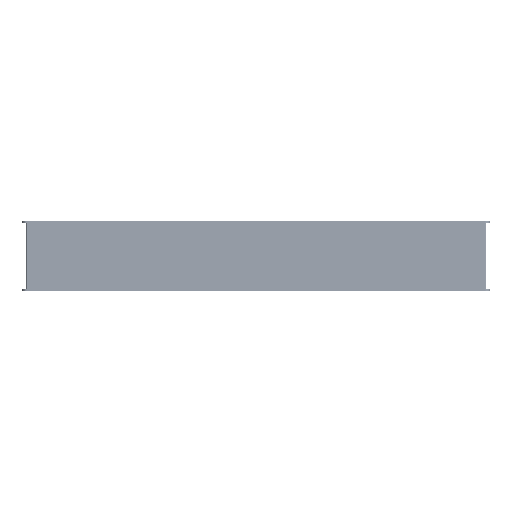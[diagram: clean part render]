
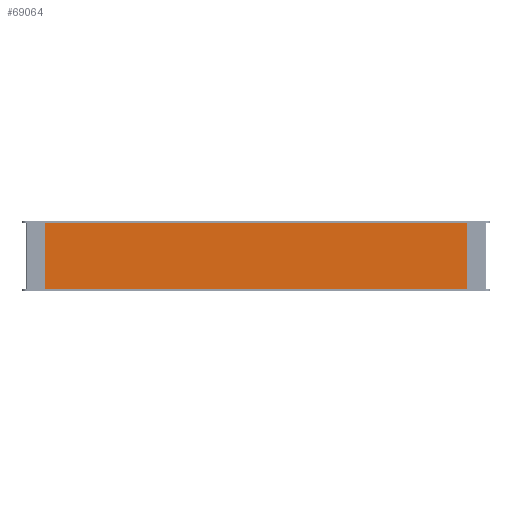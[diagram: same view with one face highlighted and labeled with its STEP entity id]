
A CAD part, left-side view. The second image highlights one B-rep face of the part: STEP entity #69064.
In plain terms, the highlighted planar face has unit normal (-1, 0, 0).
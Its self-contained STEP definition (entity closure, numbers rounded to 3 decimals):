
#3157 = LINE ( 'NONE', #26781, #58211 ) ;
#3183 = LINE ( 'NONE', #143911, #82022 ) ;
#8129 = EDGE_CURVE ( 'NONE', #134507, #163203, #3183, .T. ) ;
#11879 = DIRECTION ( 'NONE',  ( 0., -1., 0. ) ) ;
#14982 = DIRECTION ( 'NONE',  ( 0., -1., 0. ) ) ;
#15787 = DIRECTION ( 'NONE',  ( 0., 0., -1. ) ) ;
#26781 = CARTESIAN_POINT ( 'NONE',  ( -875.983, -448.14, 8.955 ) ) ;
#38803 = LINE ( 'NONE', #125627, #146312 ) ;
#39226 = CARTESIAN_POINT ( 'NONE',  ( -875.983, -448.14, -131.045 ) ) ;
#42397 = AXIS2_PLACEMENT_3D ( 'NONE', #108430, #94148, #14982 ) ;
#42930 = ORIENTED_EDGE ( 'NONE', *, *, #81920, .T. ) ;
#47175 = EDGE_LOOP ( 'NONE', ( #166300, #42930, #49036, #162150 ) ) ;
#49036 = ORIENTED_EDGE ( 'NONE', *, *, #104872, .T. ) ;
#58211 = VECTOR ( 'NONE', #78155, 1000. ) ;
#61673 = VERTEX_POINT ( 'NONE', #39226 ) ;
#69064 = ADVANCED_FACE ( 'NONE', ( #107604 ), #78991, .F. ) ;
#70406 = VERTEX_POINT ( 'NONE', #120253 ) ;
#78155 = DIRECTION ( 'NONE',  ( 0., 0., 1. ) ) ;
#78991 = PLANE ( 'NONE',  #42397 ) ;
#81920 = EDGE_CURVE ( 'NONE', #70406, #61673, #38803, .T. ) ;
#82022 = VECTOR ( 'NONE', #105114, 1000. ) ;
#83404 = EDGE_CURVE ( 'NONE', #163203, #70406, #146361, .T. ) ;
#94148 = DIRECTION ( 'NONE',  ( 1., 0., 0. ) ) ;
#104872 = EDGE_CURVE ( 'NONE', #61673, #134507, #3157, .T. ) ;
#105114 = DIRECTION ( 'NONE',  ( 0., 1., 0. ) ) ;
#106290 = CARTESIAN_POINT ( 'NONE',  ( -875.983, 517.86, 8.955 ) ) ;
#107604 = FACE_OUTER_BOUND ( 'NONE', #47175, .T. ) ;
#108430 = CARTESIAN_POINT ( 'NONE',  ( -875.983, 34.86, -61.045 ) ) ;
#115254 = CARTESIAN_POINT ( 'NONE',  ( -875.983, -448.14, 8.955 ) ) ;
#120253 = CARTESIAN_POINT ( 'NONE',  ( -875.983, 517.86, -131.045 ) ) ;
#125627 = CARTESIAN_POINT ( 'NONE',  ( -875.983, -448.14, -131.045 ) ) ;
#130398 = CARTESIAN_POINT ( 'NONE',  ( -875.983, 517.86, 8.955 ) ) ;
#134507 = VERTEX_POINT ( 'NONE', #115254 ) ;
#143911 = CARTESIAN_POINT ( 'NONE',  ( -875.983, -448.14, 8.955 ) ) ;
#146312 = VECTOR ( 'NONE', #11879, 1000. ) ;
#146361 = LINE ( 'NONE', #130398, #165109 ) ;
#162150 = ORIENTED_EDGE ( 'NONE', *, *, #8129, .T. ) ;
#163203 = VERTEX_POINT ( 'NONE', #106290 ) ;
#165109 = VECTOR ( 'NONE', #15787, 1000. ) ;
#166300 = ORIENTED_EDGE ( 'NONE', *, *, #83404, .T. ) ;
